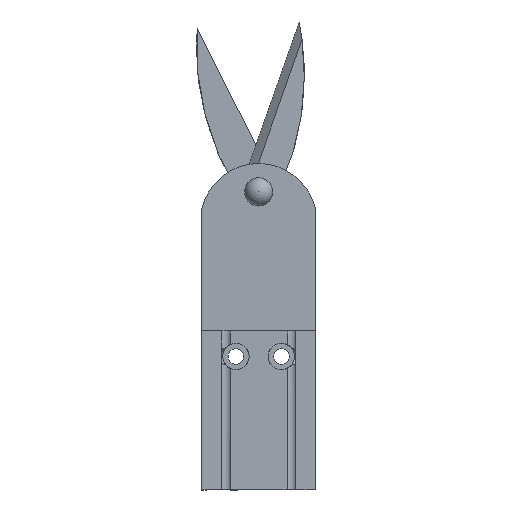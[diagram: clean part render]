
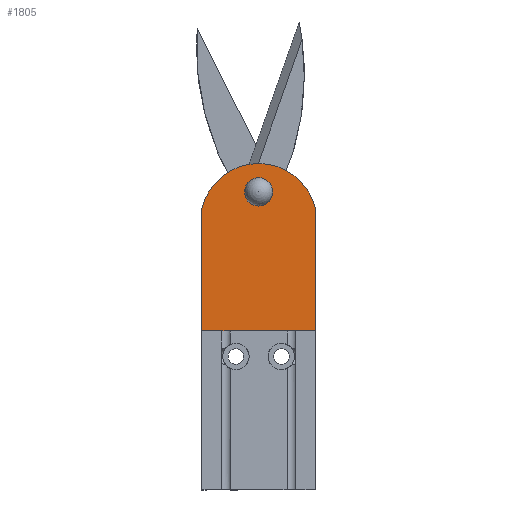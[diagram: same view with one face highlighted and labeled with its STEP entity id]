
A CAD part, top view. The second image highlights one B-rep face of the part: STEP entity #1805.
In plain terms, the highlighted planar face has unit normal (0, 0, 1).
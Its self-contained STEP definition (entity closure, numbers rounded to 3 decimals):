
#224 = CARTESIAN_POINT ( 'NONE',  ( 10.159, 9.561, 10.5 ) ) ;
#269 = DIRECTION ( 'NONE',  ( 0., 0., -1. ) ) ;
#299 = VERTEX_POINT ( 'NONE', #8509 ) ;
#320 = EDGE_CURVE ( 'NONE', #7479, #3527, #656, .T. ) ;
#473 = CARTESIAN_POINT ( 'NONE',  ( 30.159, 14.061, 10.5 ) ) ;
#474 = DIRECTION ( 'NONE',  ( 1., 0., 0. ) ) ;
#576 = LINE ( 'NONE', #4777, #5897 ) ;
#656 = LINE ( 'NONE', #5669, #8434 ) ;
#784 = CIRCLE ( 'NONE', #4871, 5. ) ;
#797 = EDGE_CURVE ( 'NONE', #299, #5833, #5483, .T. ) ;
#861 = DIRECTION ( 'NONE',  ( -1., 0., 0. ) ) ;
#893 = EDGE_CURVE ( 'NONE', #3527, #299, #576, .T. ) ;
#1085 = CARTESIAN_POINT ( 'NONE',  ( 15.159, 20.061, 10.5 ) ) ;
#1362 = DIRECTION ( 'NONE',  ( 0., 0., 1. ) ) ;
#1543 = ORIENTED_EDGE ( 'NONE', *, *, #893, .T. ) ;
#1745 = AXIS2_PLACEMENT_3D ( 'NONE', #2688, #4604, #3319 ) ;
#1805 = ADVANCED_FACE ( 'NONE', ( #7131, #2428 ), #3595, .F. ) ;
#1821 = AXIS2_PLACEMENT_3D ( 'NONE', #7640, #1362, #3312 ) ;
#1937 = CARTESIAN_POINT ( 'NONE',  ( -9.841, 14.061, 10.5 ) ) ;
#2024 = DIRECTION ( 'NONE',  ( 0., 1., 0. ) ) ;
#2317 = ORIENTED_EDGE ( 'NONE', *, *, #5025, .T. ) ;
#2333 = VECTOR ( 'NONE', #2024, 1000. ) ;
#2428 = FACE_OUTER_BOUND ( 'NONE', #5864, .T. ) ;
#2688 = CARTESIAN_POINT ( 'NONE',  ( 10.159, 20.061, 10.5 ) ) ;
#2923 = DIRECTION ( 'NONE',  ( 0., -1., 0. ) ) ;
#3312 = DIRECTION ( 'NONE',  ( -1., 0., 0. ) ) ;
#3319 = DIRECTION ( 'NONE',  ( -1., 0., 0. ) ) ;
#3420 = AXIS2_PLACEMENT_3D ( 'NONE', #224, #269, #861 ) ;
#3527 = VERTEX_POINT ( 'NONE', #6725 ) ;
#3595 = PLANE ( 'NONE',  #3420 ) ;
#3615 = CIRCLE ( 'NONE', #1745, 5. ) ;
#3720 = DIRECTION ( 'NONE',  ( 0., 0., -1. ) ) ;
#4059 = CARTESIAN_POINT ( 'NONE',  ( 5.159, 20.061, 10.5 ) ) ;
#4153 = CIRCLE ( 'NONE', #1821, 20.5 ) ;
#4228 = EDGE_CURVE ( 'NONE', #4854, #5019, #784, .T. ) ;
#4604 = DIRECTION ( 'NONE',  ( 0., 0., -1. ) ) ;
#4777 = CARTESIAN_POINT ( 'NONE',  ( 30.159, -28.939, 10.5 ) ) ;
#4854 = VERTEX_POINT ( 'NONE', #1085 ) ;
#4871 = AXIS2_PLACEMENT_3D ( 'NONE', #7438, #3720, #7901 ) ;
#5019 = VERTEX_POINT ( 'NONE', #4059 ) ;
#5025 = EDGE_CURVE ( 'NONE', #5019, #4854, #3615, .T. ) ;
#5483 = LINE ( 'NONE', #8287, #2333 ) ;
#5669 = CARTESIAN_POINT ( 'NONE',  ( -9.841, -28.939, 10.5 ) ) ;
#5785 = ORIENTED_EDGE ( 'NONE', *, *, #7223, .T. ) ;
#5833 = VERTEX_POINT ( 'NONE', #473 ) ;
#5864 = EDGE_LOOP ( 'NONE', ( #1543, #9029, #5785, #8213 ) ) ;
#5897 = VECTOR ( 'NONE', #474, 1000. ) ;
#6725 = CARTESIAN_POINT ( 'NONE',  ( -9.841, -28.939, 10.5 ) ) ;
#7131 = FACE_BOUND ( 'NONE', #9023, .T. ) ;
#7223 = EDGE_CURVE ( 'NONE', #5833, #7479, #4153, .T. ) ;
#7438 = CARTESIAN_POINT ( 'NONE',  ( 10.159, 20.061, 10.5 ) ) ;
#7479 = VERTEX_POINT ( 'NONE', #1937 ) ;
#7640 = CARTESIAN_POINT ( 'NONE',  ( 10.159, 9.561, 10.5 ) ) ;
#7706 = ORIENTED_EDGE ( 'NONE', *, *, #4228, .T. ) ;
#7901 = DIRECTION ( 'NONE',  ( -1., 0., 0. ) ) ;
#8213 = ORIENTED_EDGE ( 'NONE', *, *, #320, .T. ) ;
#8287 = CARTESIAN_POINT ( 'NONE',  ( 30.159, 14.061, 10.5 ) ) ;
#8434 = VECTOR ( 'NONE', #2923, 1000. ) ;
#8509 = CARTESIAN_POINT ( 'NONE',  ( 30.159, -28.939, 10.5 ) ) ;
#9023 = EDGE_LOOP ( 'NONE', ( #2317, #7706 ) ) ;
#9029 = ORIENTED_EDGE ( 'NONE', *, *, #797, .T. ) ;
